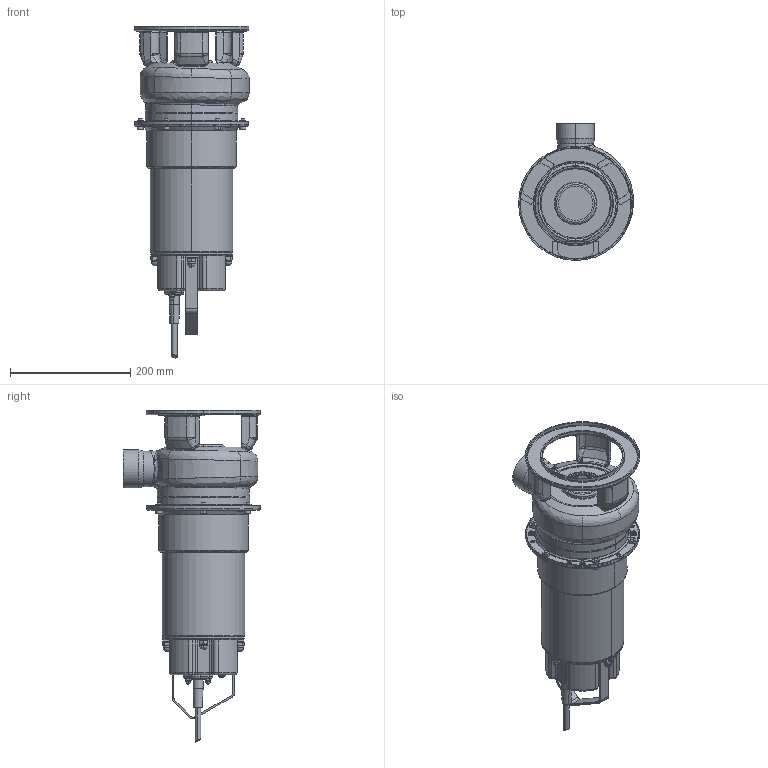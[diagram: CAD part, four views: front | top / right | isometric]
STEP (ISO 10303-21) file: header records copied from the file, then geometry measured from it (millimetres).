
FILE_DESCRIPTION((''),'2;1');
FILE_NAME('DW_200_ASM','2009-09-28T',('Utente'),('"Ebara Pumps Europe +39.444.706811"'),'PRO/ENGINEER BY PARAMETRIC TECHNOLOGY CORPORATION, 2008400','PRO/ENGINEER BY PARAMETRIC TECHNOLOGY CORPORATION, 2008400','');
FILE_SCHEMA(('AUTOMOTIVE_DESIGN { 1 0 10303 214 1 1 1 1 }'));
Length unit declared in the file: millimetre
Products named in the file (15): 20698; DADO_A_SALDARE_M6; DADO_M5; 62023; 15032; 72074; CORPO_POMPA_DW_ASM; CASSA_MOTORE_ALTA_M6X12; COPERCHIO_MOTORE_25081; 60022; 66002_SEMPLICE; 65003_SEMPLICE; DADO_CALOTTA_M5; VITE_TCC_M5X8_UNI7687; DW_200_ASM
Assembly tree (25 placements, depth 3):
  DW_200_ASM
    CORPO_POMPA_DW_ASM
      20698
      DADO_A_SALDARE_M6  x6
      DADO_M5  x4
      62023
      15032
      72074  x3
    CASSA_MOTORE_ALTA_M6X12
    COPERCHIO_MOTORE_25081
    60022
    66002_SEMPLICE
    65003_SEMPLICE
    DADO_CALOTTA_M5  x2
    VITE_TCC_M5X8_UNI7687
Bounding box: 191.32 x 228 x 552.52 mm (x, y, z)
Volume: 4414096.4 mm3; surface area: 554553.2 mm2
Topology: 24 solids, 27 shells, 1098 faces, 2466 edges, 1480 vertices
Faces by surface type: plane 325, cylinder 319, bspline 176, torus 138, cone 112, sphere 24, extrusion 4
Entity records: 33343 total; most frequent: CARTESIAN_POINT 13603, DIRECTION 4095, ORIENTED_EDGE 3720, EDGE_CURVE 1862, AXIS2_PLACEMENT_3D 1744, VERTEX_POINT 1123, CIRCLE 960, EDGE_LOOP 925
